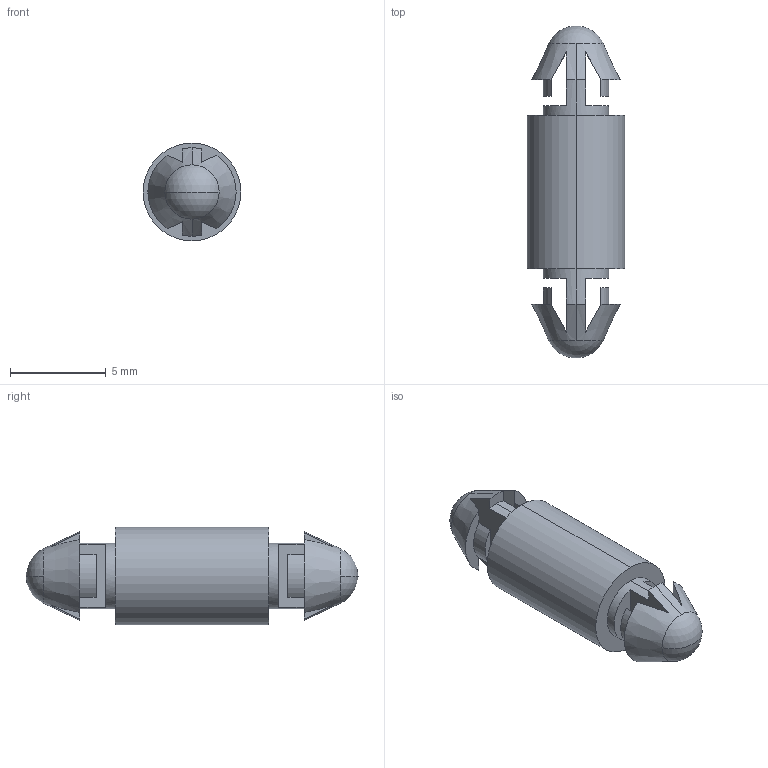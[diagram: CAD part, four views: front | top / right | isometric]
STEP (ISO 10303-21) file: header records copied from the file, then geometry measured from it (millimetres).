
FILE_DESCRIPTION (( 'STEP AP214' ), '1' );
FILE_NAME ('LCI-8.STEP', '2014-12-30T11:13:36', ( 'Tester2' ), ( '' ), 'SwSTEP 2.0', 'SolidWorks 2012', '' );
FILE_SCHEMA (( 'AUTOMOTIVE_DESIGN' ));
Length unit declared in the file: millimetre
Products named in the file (1): LCI-8
Bounding box: 5.1 x 17.3 x 5.1 mm (x, y, z)
Volume: 223 mm3; surface area: 330.7 mm2
Topology: 1 solids, 1 shells, 48 faces, 126 edges, 82 vertices
Faces by surface type: plane 30, cylinder 10, cone 4, sphere 4
Entity records: 1536 total; most frequent: CARTESIAN_POINT 305, DIRECTION 260, ORIENTED_EDGE 252, EDGE_CURVE 126, AXIS2_PLACEMENT_3D 101, VERTEX_POINT 82, VECTOR 58, LINE 58
